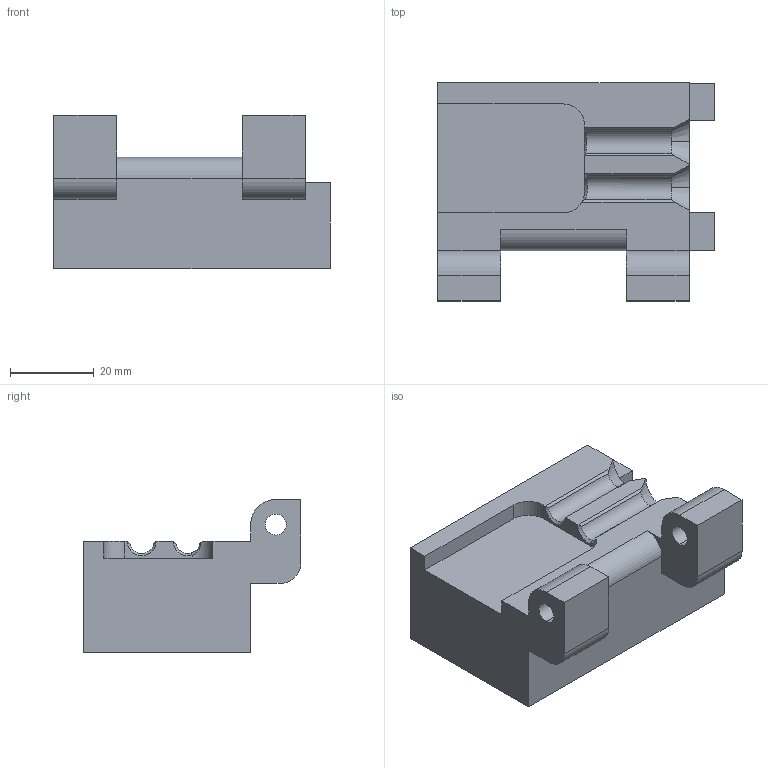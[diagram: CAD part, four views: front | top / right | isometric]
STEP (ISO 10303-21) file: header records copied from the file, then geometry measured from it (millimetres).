
FILE_DESCRIPTION (( 'STEP AP214' ), '1' );
FILE_NAME ('GZ47B.06_V1下压块-02.STEP', '2021-07-01T00:43:16', ( '微软中国' ), ( 'Microsoft' ), 'SwSTEP 2.0', 'SolidWorks 2017', '' );
FILE_SCHEMA (( 'AUTOMOTIVE_DESIGN' ));
Length unit declared in the file: millimetre
Products named in the file (1): GZ47B.06_V1狟揤輸-02
Bounding box: 66 x 52 x 36.5 mm (x, y, z)
Volume: 64145.7 mm3; surface area: 14836 mm2
Topology: 1 solids, 1 shells, 74 faces, 205 edges, 129 vertices
Faces by surface type: plane 38, cylinder 21, cone 14, bspline 1
Entity records: 2624 total; most frequent: CARTESIAN_POINT 632, ORIENTED_EDGE 394, DIRECTION 381, EDGE_CURVE 197, VECTOR 133, LINE 133, VERTEX_POINT 129, AXIS2_PLACEMENT_3D 124
